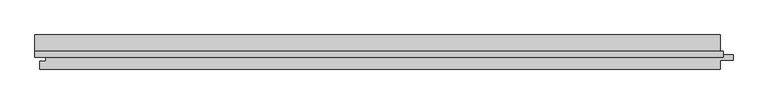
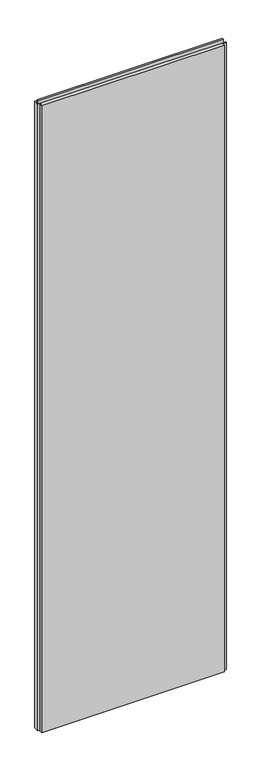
"""IFC4 building model written with IfcOpenShell, lengths in millimetres: plate geometry, Trimo_Qbiss Screen_Normal Panel-VERTICAL : HR - FB."""

from ifc_helpers import new_model, si_unit, frame, origin, place, context, project, spatial, polyline, outline, extrude, source, transform, mapped, element, save


def plate_6a977542(model_context):
    return source(origin(), model_context, "Body", "SweptSolid", [
        extrude(outline(polyline([(-500.0, 93.9), (-500.0, 102.6), (500.0, 102.6), (500.0, 93.9), (-500.0, 93.9)])), frame((0.0, 0.0, 3590.5), z_axis=(0.0, 0.0, 1.0), x_axis=(1.0, 0.0, 0.0)), (0.0, 0.0, 1.0), 19.0),
        extrude(outline(polyline([(496.0, 97.0), (514.5, 97.0), (514.5, 89.0), (496.0, 89.0), (496.0, 76.0), (-493.0, 76.0), (-493.0, 88.0), (-484.5, 88.0), (-484.5, 98.0), (-500.0, 98.0), (-500.0, 126.0), (496.0, 126.0), (496.0, 97.0)])), frame((0.0, 0.0, 12.5), z_axis=(0.0, 0.0, 1.0), x_axis=(1.0, 0.0, 0.0)), (0.0, 0.0, 1.0), 3575.0),
    ])


if __name__ == "__main__":
    model = new_model("IFC4")
    model_context = context("Model", 3, world=origin())
    ifc_project = project(units=[si_unit("LENGTHUNIT", "METRE", prefix="MILLI")], contexts=[model_context])
    site = spatial("IfcSite", under=ifc_project)
    building = spatial("IfcBuilding", under=site)
    placement = place(None, origin())
    plate_shape = plate_6a977542(model_context)
    element("IfcPlate", 1, ObjectType="Trimo_Qbiss Screen_Normal Panel-VERTICAL : HR - FB", at=placement, inside=building, context=model_context, shape_type="MappedRepresentation", body=[
        mapped(plate_shape, transform((0.0, 0.0, 0.0), x_axis=(1.0, 0.0, 0.0), y_axis=(0.0, 1.0, 0.0), z_axis=(0.0, 0.0, 1.0))),
    ])
    save(model, "model.ifc")
